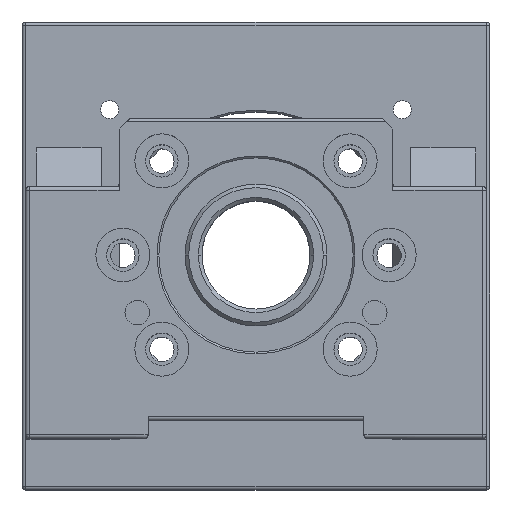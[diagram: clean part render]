
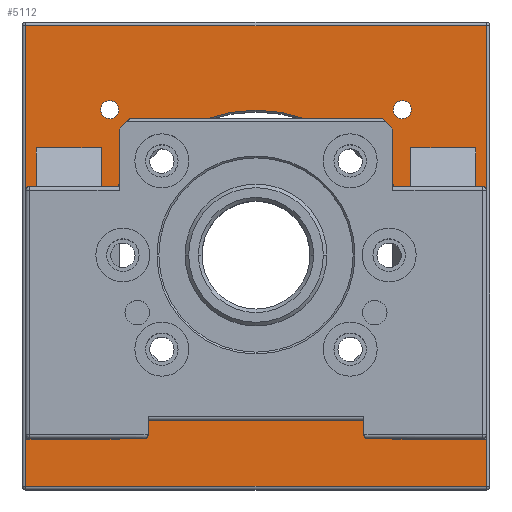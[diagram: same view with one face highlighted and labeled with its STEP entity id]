
A CAD part, top view. The second image highlights one B-rep face of the part: STEP entity #5112.
In plain terms, the highlighted planar face has unit normal (0, 0, 1).
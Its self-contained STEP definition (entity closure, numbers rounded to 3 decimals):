
#1780=DIRECTION('',(-1.,0.,0.));
#1781=VECTOR('',#1780,18.);
#1782=CARTESIAN_POINT('',(61.,30.,20.));
#1783=LINE('',#1782,#1781);
#1795=DIRECTION('',(0.,-1.,0.));
#1796=VECTOR('',#1795,69.782);
#1797=CARTESIAN_POINT('',(43.,30.,20.));
#1798=LINE('',#1797,#1796);
#1807=DIRECTION('',(0.,-1.,0.));
#1808=VECTOR('',#1807,8.465);
#1809=CARTESIAN_POINT('',(43.,-41.535,20.));
#1810=LINE('',#1809,#1808);
#1811=CARTESIAN_POINT('',(-40.659,-40.659,20.));
#1812=DIRECTION('',(0.,0.,-1.));
#1813=DIRECTION('',(-0.937,0.351,0.));
#1814=AXIS2_PLACEMENT_3D('',#1811,#1812,#1813);
#1816=DIRECTION('',(-1.,0.,0.));
#1817=VECTOR('',#1816,17.);
#1818=CARTESIAN_POINT('',(-44.,-51.,20.));
#1819=LINE('',#1818,#1817);
#1820=CARTESIAN_POINT('',(-44.,-50.,20.));
#1821=DIRECTION('',(0.,0.,-1.));
#1822=DIRECTION('',(1.,0.,0.));
#1823=AXIS2_PLACEMENT_3D('',#1820,#1821,#1822);
#1825=CARTESIAN_POINT('',(-40.659,-40.659,20.));
#1826=DIRECTION('',(0.,0.,-1.));
#1827=DIRECTION('',(1.,0.,0.));
#1828=AXIS2_PLACEMENT_3D('',#1825,#1826,#1827);
#1830=CARTESIAN_POINT('',(40.659,-40.659,20.));
#1831=DIRECTION('',(0.,0.,-1.));
#1832=DIRECTION('',(0.937,-0.351,0.));
#1833=AXIS2_PLACEMENT_3D('',#1830,#1831,#1832);
#1835=CARTESIAN_POINT('',(44.,-50.,20.));
#1836=DIRECTION('',(0.,0.,-1.));
#1837=DIRECTION('',(0.,-1.,0.));
#1838=AXIS2_PLACEMENT_3D('',#1835,#1836,#1837);
#1840=DIRECTION('',(-1.,0.,0.));
#1841=VECTOR('',#1840,16.);
#1842=CARTESIAN_POINT('',(60.,-51.,20.));
#1843=LINE('',#1842,#1841);
#1844=CARTESIAN_POINT('',(60.,-50.,20.));
#1845=DIRECTION('',(0.,0.,-1.));
#1846=DIRECTION('',(1.,0.,0.));
#1847=AXIS2_PLACEMENT_3D('',#1844,#1845,#1846);
#1849=CARTESIAN_POINT('',(40.659,-40.659,20.));
#1850=DIRECTION('',(0.,0.,-1.));
#1851=DIRECTION('',(-1.,0.,0.));
#1852=AXIS2_PLACEMENT_3D('',#1849,#1850,#1851);
#1854=CARTESIAN_POINT('',(40.659,40.659,20.));
#1855=DIRECTION('',(0.,0.,-1.));
#1856=DIRECTION('',(-1.,0.,0.));
#1857=AXIS2_PLACEMENT_3D('',#1854,#1855,#1856);
#1859=CARTESIAN_POINT('',(40.659,40.659,20.));
#1860=DIRECTION('',(0.,0.,-1.));
#1861=DIRECTION('',(1.,0.,0.));
#1862=AXIS2_PLACEMENT_3D('',#1859,#1860,#1861);
#1864=CARTESIAN_POINT('',(-40.659,40.659,20.));
#1865=DIRECTION('',(0.,0.,-1.));
#1866=DIRECTION('',(-1.,0.,0.));
#1867=AXIS2_PLACEMENT_3D('',#1864,#1865,#1866);
#1869=CARTESIAN_POINT('',(-40.659,40.659,20.));
#1870=DIRECTION('',(0.,0.,-1.));
#1871=DIRECTION('',(1.,0.,0.));
#1872=AXIS2_PLACEMENT_3D('',#1869,#1870,#1871);
#1874=CARTESIAN_POINT('',(0.,0.,20.));
#1875=DIRECTION('',(0.,0.,-1.));
#1876=DIRECTION('',(1.,0.,0.));
#1877=AXIS2_PLACEMENT_3D('',#1874,#1875,#1876);
#1879=CARTESIAN_POINT('',(0.,0.,20.));
#1880=DIRECTION('',(0.,0.,-1.));
#1881=DIRECTION('',(-1.,0.,0.));
#1882=AXIS2_PLACEMENT_3D('',#1879,#1880,#1881);
#1884=DIRECTION('',(0.,1.,0.));
#1885=VECTOR('',#1884,128.);
#1886=CARTESIAN_POINT('',(-64.,-64.,20.));
#1887=LINE('',#1886,#1885);
#1907=DIRECTION('',(1.,0.,0.));
#1908=VECTOR('',#1907,128.);
#1909=CARTESIAN_POINT('',(-64.,64.,20.));
#1910=LINE('',#1909,#1908);
#2085=DIRECTION('',(-1.,0.,0.));
#2086=VECTOR('',#2085,128.);
#2087=CARTESIAN_POINT('',(64.,-64.,20.));
#2088=LINE('',#2087,#2086);
#2131=DIRECTION('',(0.,-1.,0.));
#2132=VECTOR('',#2131,128.);
#2133=CARTESIAN_POINT('',(64.,64.,20.));
#2134=LINE('',#2133,#2132);
#2174=CARTESIAN_POINT('',(-43.,-39.782,20.));
#2186=DIRECTION('',(0.,1.,0.));
#2187=VECTOR('',#2186,8.465);
#2188=CARTESIAN_POINT('',(-43.,-50.,20.));
#2189=LINE('',#2188,#2187);
#2198=DIRECTION('',(0.,1.,0.));
#2199=VECTOR('',#2198,69.782);
#2200=CARTESIAN_POINT('',(-43.,-39.782,20.));
#2201=LINE('',#2200,#2199);
#2232=DIRECTION('',(-1.,0.,0.));
#2233=VECTOR('',#2232,18.);
#2234=CARTESIAN_POINT('',(-43.,30.,20.));
#2235=LINE('',#2234,#2233);
#2251=DIRECTION('',(0.,-1.,0.));
#2252=VECTOR('',#2251,81.);
#2253=CARTESIAN_POINT('',(-61.,30.,20.));
#2254=LINE('',#2253,#2252);
#2824=DIRECTION('',(0.,1.,0.));
#2825=VECTOR('',#2824,80.);
#2826=CARTESIAN_POINT('',(61.,-50.,20.));
#2827=LINE('',#2826,#2825);
#3508=VERTEX_POINT('',#2174);
#3544=CARTESIAN_POINT('',(64.,64.,20.));
#3545=CARTESIAN_POINT('',(64.,-64.,20.));
#3546=VERTEX_POINT('',#3544);
#3547=VERTEX_POINT('',#3545);
#3574=CARTESIAN_POINT('',(-40.5,0.,20.));
#3575=CARTESIAN_POINT('',(40.5,0.,20.));
#3576=VERTEX_POINT('',#3574);
#3577=VERTEX_POINT('',#3575);
#3594=CARTESIAN_POINT('',(-43.,-50.,20.));
#3595=CARTESIAN_POINT('',(-43.,-41.535,20.));
#3596=VERTEX_POINT('',#3594);
#3597=VERTEX_POINT('',#3595);
#3697=CARTESIAN_POINT('',(43.,-41.535,20.));
#3698=CARTESIAN_POINT('',(43.,-50.,20.));
#3699=VERTEX_POINT('',#3697);
#3700=VERTEX_POINT('',#3698);
#3731=CARTESIAN_POINT('',(61.,30.,20.));
#3733=VERTEX_POINT('',#3731);
#3752=CARTESIAN_POINT('',(43.,30.,20.));
#3753=VERTEX_POINT('',#3752);
#3787=CARTESIAN_POINT('',(38.159,-40.659,20.));
#3788=CARTESIAN_POINT('',(43.,-39.782,20.));
#3789=VERTEX_POINT('',#3787);
#3790=VERTEX_POINT('',#3788);
#3836=CARTESIAN_POINT('',(38.159,40.659,20.));
#3837=VERTEX_POINT('',#3836);
#3872=CARTESIAN_POINT('',(43.159,40.659,20.));
#3873=VERTEX_POINT('',#3872);
#3875=CARTESIAN_POINT('',(-38.159,-40.659,20.));
#3877=VERTEX_POINT('',#3875);
#3887=CARTESIAN_POINT('',(-43.159,40.659,20.));
#3888=CARTESIAN_POINT('',(-38.159,40.659,20.));
#3889=VERTEX_POINT('',#3887);
#3890=VERTEX_POINT('',#3888);
#3910=CARTESIAN_POINT('',(-64.,64.,20.));
#3911=VERTEX_POINT('',#3910);
#3922=CARTESIAN_POINT('',(61.,-50.,20.));
#3923=VERTEX_POINT('',#3922);
#3928=CARTESIAN_POINT('',(-43.,30.,20.));
#3929=VERTEX_POINT('',#3928);
#3932=CARTESIAN_POINT('',(-61.,30.,20.));
#3933=VERTEX_POINT('',#3932);
#3934=CARTESIAN_POINT('',(-44.,-51.,20.));
#3935=CARTESIAN_POINT('',(-61.,-51.,20.));
#3936=VERTEX_POINT('',#3934);
#3937=VERTEX_POINT('',#3935);
#3987=CARTESIAN_POINT('',(-64.,-64.,20.));
#3988=VERTEX_POINT('',#3987);
#4008=CARTESIAN_POINT('',(44.,-51.,20.));
#4009=VERTEX_POINT('',#4008);
#4014=CARTESIAN_POINT('',(60.,-51.,20.));
#4015=VERTEX_POINT('',#4014);
#5045=CARTESIAN_POINT('',(0.,0.,20.));
#5046=DIRECTION('',(0.,0.,1.));
#5047=DIRECTION('',(1.,0.,0.));
#5048=AXIS2_PLACEMENT_3D('',#5045,#5046,#5047);
#5049=PLANE('',#5048);
#5051=ORIENTED_EDGE('',*,*,#5050,.T.);
#5053=ORIENTED_EDGE('',*,*,#5052,.T.);
#5055=ORIENTED_EDGE('',*,*,#5054,.T.);
#5057=ORIENTED_EDGE('',*,*,#5056,.T.);
#5058=EDGE_LOOP('',(#5051,#5053,#5055,#5057));
#5059=FACE_OUTER_BOUND('',#5058,.F.);
#5061=ORIENTED_EDGE('',*,*,#5060,.F.);
#5063=ORIENTED_EDGE('',*,*,#5062,.T.);
#5065=ORIENTED_EDGE('',*,*,#5064,.T.);
#5067=ORIENTED_EDGE('',*,*,#5066,.T.);
#5068=ORIENTED_EDGE('',*,*,#4129,.F.);
#5070=ORIENTED_EDGE('',*,*,#5069,.F.);
#5072=ORIENTED_EDGE('',*,*,#5071,.T.);
#5074=ORIENTED_EDGE('',*,*,#5073,.F.);
#5075=EDGE_LOOP('',(#5061,#5063,#5065,#5067,#5068,#5070,#5072,#5074));
#5076=FACE_BOUND('',#5075,.F.);
#5078=ORIENTED_EDGE('',*,*,#5077,.F.);
#5079=ORIENTED_EDGE('',*,*,#5036,.T.);
#5081=ORIENTED_EDGE('',*,*,#5080,.F.);
#5083=ORIENTED_EDGE('',*,*,#5082,.F.);
#5085=ORIENTED_EDGE('',*,*,#5084,.F.);
#5087=ORIENTED_EDGE('',*,*,#5086,.T.);
#5088=ORIENTED_EDGE('',*,*,#5010,.T.);
#5089=ORIENTED_EDGE('',*,*,#5027,.T.);
#5091=ORIENTED_EDGE('',*,*,#5090,.F.);
#5092=EDGE_LOOP('',(#5078,#5079,#5081,#5083,#5085,#5087,#5088,#5089,#5091));
#5093=FACE_BOUND('',#5092,.F.);
#5095=ORIENTED_EDGE('',*,*,#5094,.F.);
#5097=ORIENTED_EDGE('',*,*,#5096,.F.);
#5098=EDGE_LOOP('',(#5095,#5097));
#5099=FACE_BOUND('',#5098,.F.);
#5101=ORIENTED_EDGE('',*,*,#5100,.F.);
#5103=ORIENTED_EDGE('',*,*,#5102,.F.);
#5104=EDGE_LOOP('',(#5101,#5103));
#5105=FACE_BOUND('',#5104,.F.);
#5107=ORIENTED_EDGE('',*,*,#5106,.F.);
#5109=ORIENTED_EDGE('',*,*,#5108,.F.);
#5110=EDGE_LOOP('',(#5107,#5109));
#5111=FACE_BOUND('',#5110,.F.);
#1815=CIRCLE('',#1814,2.5);
#1824=CIRCLE('',#1823,1.);
#1829=CIRCLE('',#1828,2.5);
#1834=CIRCLE('',#1833,2.5);
#1839=CIRCLE('',#1838,1.);
#1848=CIRCLE('',#1847,1.);
#1853=CIRCLE('',#1852,2.5);
#1858=CIRCLE('',#1857,2.5);
#1863=CIRCLE('',#1862,2.5);
#1868=CIRCLE('',#1867,2.5);
#1873=CIRCLE('',#1872,2.5);
#1878=CIRCLE('',#1877,40.5);
#1883=CIRCLE('',#1882,40.5);
#4129=EDGE_CURVE('',#3936,#3937,#1819,.T.);
#5010=EDGE_CURVE('',#3733,#3753,#1783,.T.);
#5027=EDGE_CURVE('',#3753,#3790,#1798,.T.);
#5036=EDGE_CURVE('',#3699,#3700,#1810,.T.);
#5050=EDGE_CURVE('',#3988,#3911,#1887,.T.);
#5052=EDGE_CURVE('',#3911,#3546,#1910,.T.);
#5054=EDGE_CURVE('',#3546,#3547,#2134,.T.);
#5056=EDGE_CURVE('',#3547,#3988,#2088,.T.);
#5060=EDGE_CURVE('',#3508,#3877,#1815,.T.);
#5062=EDGE_CURVE('',#3508,#3929,#2201,.T.);
#5064=EDGE_CURVE('',#3929,#3933,#2235,.T.);
#5066=EDGE_CURVE('',#3933,#3937,#2254,.T.);
#5069=EDGE_CURVE('',#3596,#3936,#1824,.T.);
#5071=EDGE_CURVE('',#3596,#3597,#2189,.T.);
#5073=EDGE_CURVE('',#3877,#3597,#1829,.T.);
#5077=EDGE_CURVE('',#3699,#3789,#1834,.T.);
#5080=EDGE_CURVE('',#4009,#3700,#1839,.T.);
#5082=EDGE_CURVE('',#4015,#4009,#1843,.T.);
#5084=EDGE_CURVE('',#3923,#4015,#1848,.T.);
#5086=EDGE_CURVE('',#3923,#3733,#2827,.T.);
#5090=EDGE_CURVE('',#3789,#3790,#1853,.T.);
#5094=EDGE_CURVE('',#3837,#3873,#1858,.T.);
#5096=EDGE_CURVE('',#3873,#3837,#1863,.T.);
#5100=EDGE_CURVE('',#3889,#3890,#1868,.T.);
#5102=EDGE_CURVE('',#3890,#3889,#1873,.T.);
#5106=EDGE_CURVE('',#3577,#3576,#1878,.T.);
#5108=EDGE_CURVE('',#3576,#3577,#1883,.T.);
#5112=ADVANCED_FACE('',(#5059,#5076,#5093,#5099,#5105,#5111),#5049,.T.);
